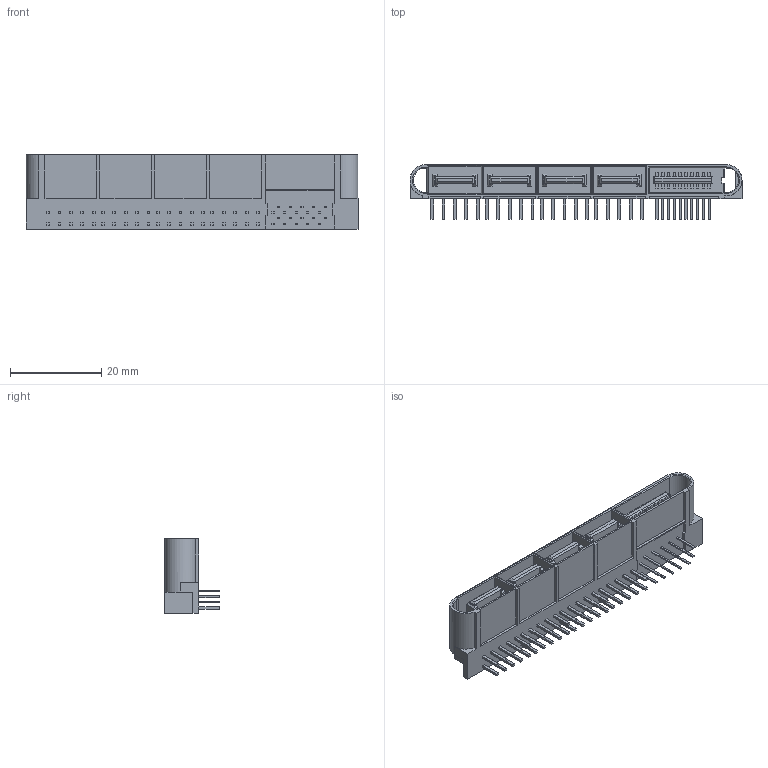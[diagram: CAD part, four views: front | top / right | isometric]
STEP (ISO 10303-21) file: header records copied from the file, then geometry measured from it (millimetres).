
FILE_DESCRIPTION((''),'2;1');
FILE_NAME('459858231','2020-10-28T',('me'),(''),'PRO/ENGINEER BY PARAMETRIC TECHNOLOGY CORPORATION, 2016010','PRO/ENGINEER BY PARAMETRIC TECHNOLOGY CORPORATION, 2016010','');
FILE_SCHEMA(('CONFIG_CONTROL_DESIGN'));
Length unit declared in the file: millimetre
Products named in the file (1): 459858231
Bounding box: 72.74 x 11.99 x 16.3 mm (x, y, z)
Volume: 4685.2 mm3; surface area: 7443.9 mm2
Topology: 1 solids, 1 shells, 941 faces, 2681 edges, 1808 vertices
Faces by surface type: plane 893, cylinder 46, cone 2
Entity records: 30150 total; most frequent: CARTESIAN_POINT 5325, ORIENTED_EDGE 5122, DIRECTION 4819, EDGE_CURVE 2561, VECTOR 2419, LINE 2419, VERTEX_POINT 1688, AXIS2_PLACEMENT_3D 1200
